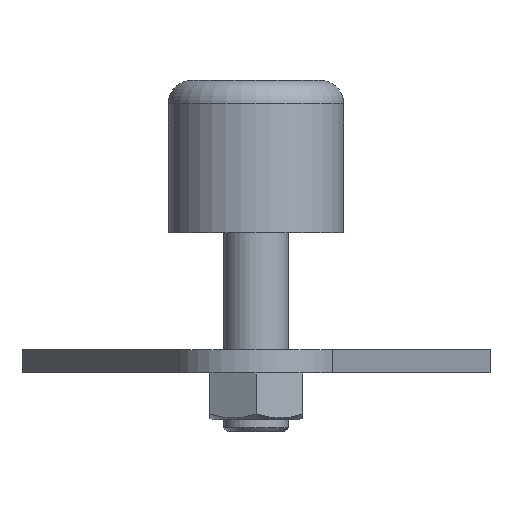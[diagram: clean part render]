
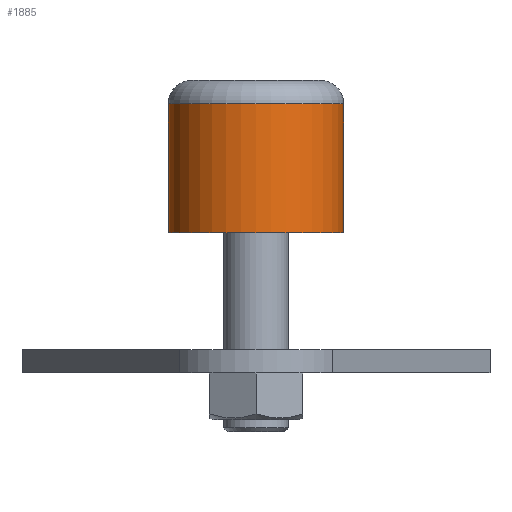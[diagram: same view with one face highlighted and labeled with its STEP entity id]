
A CAD part, front view. The second image highlights one B-rep face of the part: STEP entity #1885.
In plain terms, the highlighted free-form (B-spline) face has degree [1, 2] with [2, 9] control points.
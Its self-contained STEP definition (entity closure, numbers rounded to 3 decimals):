
#94 = CARTESIAN_POINT ( 'NONE',  ( 1.532, -15.503, 23. ) ) ;
#100 = ORIENTED_EDGE ( 'NONE', *, *, #1522, .F. ) ;
#124 = CARTESIAN_POINT ( 'NONE',  ( 1.532, -30.503, 23. ) ) ;
#160 = CARTESIAN_POINT ( 'NONE',  ( 1.532, -23.003, 23. ) ) ;
#199 = VERTEX_POINT ( 'NONE', #1323 ) ;
#228 = CARTESIAN_POINT ( 'NONE',  ( 9.032, -23.003, 23. ) ) ;
#232 = ORIENTED_EDGE ( 'NONE', *, *, #1186, .T. ) ;
#256 = CARTESIAN_POINT ( 'NONE',  ( 1.532, -15.503, 12. ) ) ;
#317 = DIRECTION ( 'NONE',  ( -1., 0., 0. ) ) ;
#341 = ORIENTED_EDGE ( 'NONE', *, *, #1198, .T. ) ;
#389 = EDGE_CURVE ( 'NONE', #199, #873, #552, .T. ) ;
#413 = CARTESIAN_POINT ( 'NONE',  ( 9.032, -30.503, 12. ) ) ;
#552 = CIRCLE ( 'NONE', #803, 7.5 ) ;
#560 = CARTESIAN_POINT ( 'NONE',  ( 9.032, -23.003, 23. ) ) ;
#569 = CARTESIAN_POINT ( 'NONE',  ( 9.032, -15.503, 12. ) ) ;
#594 = CARTESIAN_POINT ( 'NONE',  ( -5.968, -23.003, 23. ) ) ;
#636 = EDGE_LOOP ( 'NONE', ( #100, #232, #341, #849 ) ) ;
#803 = AXIS2_PLACEMENT_3D ( 'NONE', #160, #1090, #317 ) ;
#810 = CARTESIAN_POINT ( 'NONE',  ( 9.032, -23.003, 23. ) ) ;
#849 = ORIENTED_EDGE ( 'NONE', *, *, #389, .F. ) ;
#873 = VERTEX_POINT ( 'NONE', #228 ) ;
#953 = CARTESIAN_POINT ( 'NONE',  ( -5.968, -23.003, 12. ) ) ;
#1002 = B_SPLINE_CURVE_WITH_KNOTS ( 'NONE', 1,
 ( #1659, #594 ),
 .UNSPECIFIED., .F., .F.,
 ( 2, 2 ),
 ( 0., 1.467 ),
 .UNSPECIFIED. ) ;
#1050 = CARTESIAN_POINT ( 'NONE',  ( -5.968, -30.503, 23. ) ) ;
#1090 = DIRECTION ( 'NONE',  ( 0., 0., 1. ) ) ;
#1118 = CIRCLE ( 'NONE', #1340, 7.5 ) ;
#1144 = CARTESIAN_POINT ( 'NONE',  ( 9.032, -23.003, 12. ) ) ;
#1162 = B_SPLINE_CURVE_WITH_KNOTS ( 'NONE', 1,
 ( #1569, #810 ),
 .UNSPECIFIED., .F., .F.,
 ( 2, 2 ),
 ( 0., 1.467 ),
 .UNSPECIFIED. ) ;
#1186 = EDGE_CURVE ( 'NONE', #1215, #1840, #1118, .T. ) ;
#1189 = CARTESIAN_POINT ( 'NONE',  ( -5.968, -15.503, 12. ) ) ;
#1198 = EDGE_CURVE ( 'NONE', #1840, #873, #1162, .T. ) ;
#1215 = VERTEX_POINT ( 'NONE', #953 ) ;
#1254 = CARTESIAN_POINT ( 'NONE',  ( 1.532, -23.003, 12. ) ) ;
#1316 = CARTESIAN_POINT ( 'NONE',  ( 9.032, -23.003, 12. ) ) ;
#1323 = CARTESIAN_POINT ( 'NONE',  ( -5.968, -23.003, 23. ) ) ;
#1340 = AXIS2_PLACEMENT_3D ( 'NONE', #1254, #1870, #1847 ) ;
#1349 = CARTESIAN_POINT ( 'NONE',  ( 9.032, -23.003, 23. ) ) ;
#1478 = CARTESIAN_POINT ( 'NONE',  ( -5.968, -23.003, 12. ) ) ;
#1497 = CARTESIAN_POINT ( 'NONE',  ( -5.968, -30.503, 12. ) ) ;
#1522 = EDGE_CURVE ( 'NONE', #1215, #199, #1002, .T. ) ;
#1569 = CARTESIAN_POINT ( 'NONE',  ( 9.032, -23.003, 12. ) ) ;
#1633 = CARTESIAN_POINT ( 'NONE',  ( -5.968, -15.503, 23. ) ) ;
#1646 = CARTESIAN_POINT ( 'NONE',  ( 1.532, -30.503, 12. ) ) ;
#1657 = FACE_OUTER_BOUND ( 'NONE', #636, .T. ) ;
#1659 = CARTESIAN_POINT ( 'NONE',  ( -5.968, -23.003, 12. ) ) ;
#1664 = CARTESIAN_POINT ( 'NONE',  ( 9.032, -30.503, 23. ) ) ;
#1796 = CARTESIAN_POINT ( 'NONE',  ( 9.032, -15.503, 23. ) ) ;
#1824 = CARTESIAN_POINT ( 'NONE',  ( 9.032, -23.003, 12. ) ) ;
#1840 = VERTEX_POINT ( 'NONE', #1144 ) ;
#1847 = DIRECTION ( 'NONE',  ( -1., 0., 0. ) ) ;
#1849 =( BOUNDED_SURFACE ( )  B_SPLINE_SURFACE ( 1, 2, ( 
 ( #1824, #413, #1646, #1497, #1478, #1189, #256, #569, #1316 ),
 ( #1349, #1664, #124, #1050, #1943, #1633, #94, #1796, #560 ) ),
 .UNSPECIFIED., .F., .T., .F. ) 
 B_SPLINE_SURFACE_WITH_KNOTS ( ( 2, 2 ),
 ( 3, 2, 2, 2, 3 ),
 ( 0., 1.467 ),
 ( 0., 11.781, 23.562, 35.343, 47.124 ),
 .UNSPECIFIED. ) 
 GEOMETRIC_REPRESENTATION_ITEM ( )  RATIONAL_B_SPLINE_SURFACE ( (
 ( 1., 0.707, 1., 0.707, 1., 0.707, 1., 0.707, 1.),
 ( 1., 0.707, 1., 0.707, 1., 0.707, 1., 0.707, 1.) ) ) 
 REPRESENTATION_ITEM ( '' )  SURFACE ( )  );
#1870 = DIRECTION ( 'NONE',  ( 0., 0., 1. ) ) ;
#1885 = ADVANCED_FACE ( 'NONE', ( #1657 ), #1849, .T. ) ;
#1943 = CARTESIAN_POINT ( 'NONE',  ( -5.968, -23.003, 23. ) ) ;
